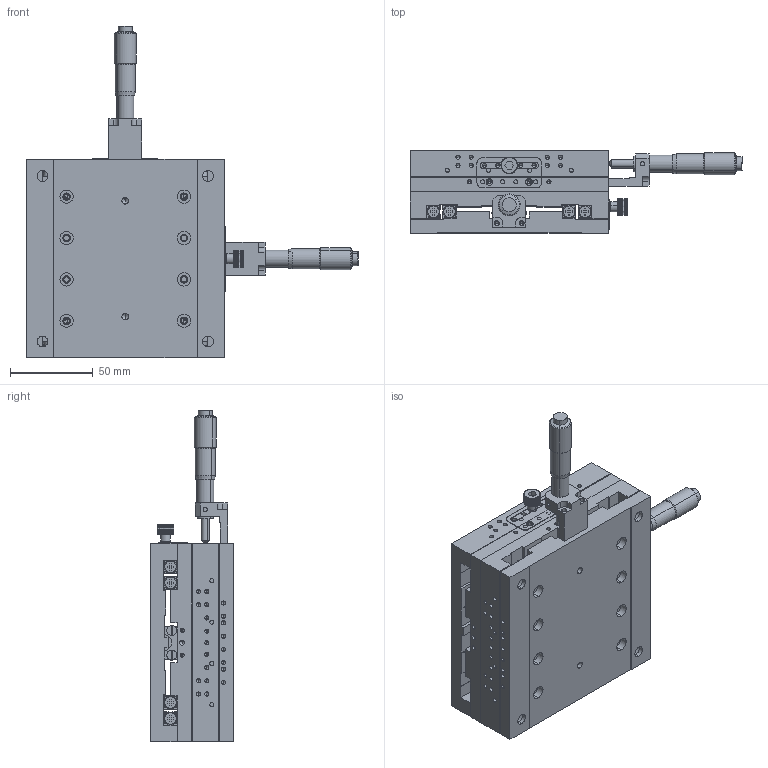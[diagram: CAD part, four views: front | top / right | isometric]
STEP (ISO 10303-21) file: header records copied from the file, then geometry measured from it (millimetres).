
FILE_DESCRIPTION (( 'STEP AP203' ), '1' );
FILE_NAME ('JCXY-120C-25.STEP', '2019-02-11T02:21:18', ( 'Windows 餌辨濠' ), ( '' ), 'SwSTEP 2.0', 'SolidWorks 2018', '' );
FILE_SCHEMA (( 'CONFIG_CONTROL_DESIGN' ));
Length unit declared in the file: millimetre
Products named in the file (12): FB-PL-39X18; JCXY-120C-25; FB-JCX-BK-C-02; FC-NB-10; JALB-73-RS; FB-JCX120-BD-01; FC-SP-6X32; JCX-120CR-25; FB-JCX120-BD-03; JV3-100-14; FC-SJ-3; JCX-120C-25
Assembly tree (28 placements, depth 3):
  JCXY-120C-25
    JCX-120C-25
      FB-JCX120-BD-03
      FB-JCX120-BD-01
      JV3-100-14  x4
      JALB-73-RS
      FC-NB-10
      FB-PL-39X18
      FB-JCX-BK-C-02
      FC-SJ-3
      FC-SP-6X32  x2
    JCX-120CR-25
      FB-JCX120-BD-03
      FB-JCX120-BD-01
      JV3-100-14  x4
      JALB-73-RS
      FB-JCX-BK-C-02
      FB-PL-39X18
      FC-NB-10
      FC-SJ-3
      FC-SP-6X32  x2
Bounding box: 200.7 x 50 x 200.7 mm (x, y, z)
Volume: 614614.1 mm3; surface area: 216203.7 mm2
Topology: 26 solids, 26 shells, 2546 faces, 6506 edges, 3940 vertices
Faces by surface type: cylinder 1298, plane 872, cone 368, sphere 8
Entity records: 28440 total; most frequent: DIRECTION 5060, CARTESIAN_POINT 4537, ORIENTED_EDGE 4296, EDGE_CURVE 2148, AXIS2_PLACEMENT_3D 1991, VERTEX_POINT 1384, EDGE_LOOP 1134, LINE 1078
